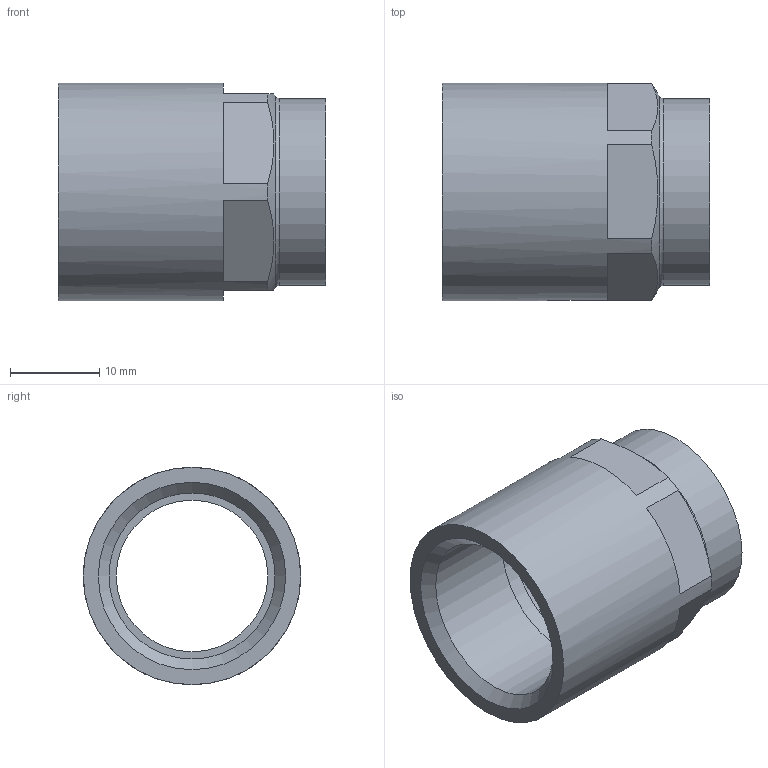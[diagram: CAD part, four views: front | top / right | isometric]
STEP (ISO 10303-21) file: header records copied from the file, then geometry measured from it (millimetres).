
FILE_DESCRIPTION(/* description */ (''),/* implementation_level */ '2;1');
FILE_NAME(/* name */ '\\LG50001\SANHA_Legnica\Engineering\Public\RYSUNKI\SANHA POLSKA\4270G\inventor\14270_18-12(2).stp',/* time_stamp */ '2015-06-18T08:43:40+02:00',/* author */ ('gomulka'),/* organization */ (''),/* preprocessor_version */ 'ST-DEVELOPER v15.6',/* originating_system */ 'Autodesk Inventor 2015',/* authorisation */ '');
FILE_SCHEMA (('AUTOMOTIVE_DESIGN { 1 0 10303 214 3 1 1 }'));
Length unit declared in the file: millimetre
Products named in the file (1): 14270_18-12(2)
Bounding box: 30 x 24.4 x 24.4 mm (x, y, z)
Volume: 4895.7 mm3; surface area: 4465.9 mm2
Topology: 1 solids, 1 shells, 27 faces, 62 edges, 39 vertices
Faces by surface type: plane 16, cylinder 6, cone 3, torus 2
Full cylindrical faces by diameter (mm): 17 x1, 18 x1, 18.631 x1, 21 x2, 24.4 x1
Entity records: 724 total; most frequent: CARTESIAN_POINT 128, DIRECTION 126, ORIENTED_EDGE 100, AXIS2_PLACEMENT_3D 54, EDGE_CURVE 50, EDGE_LOOP 42, VERTEX_POINT 38, FACE_OUTER_BOUND 27
